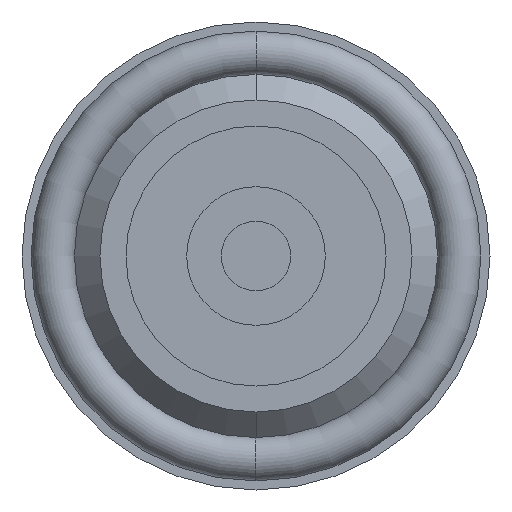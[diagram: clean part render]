
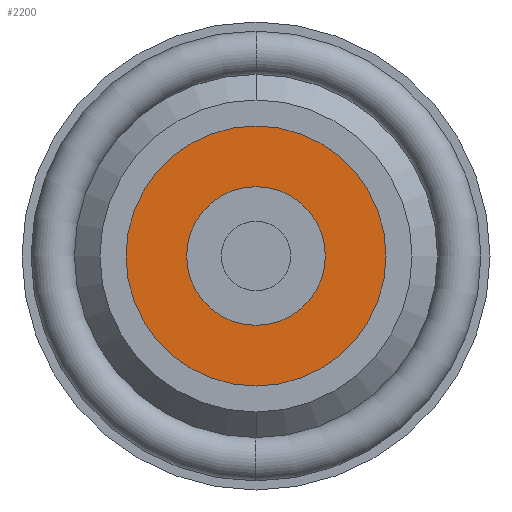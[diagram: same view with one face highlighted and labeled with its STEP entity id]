
A CAD part, front view. The second image highlights one B-rep face of the part: STEP entity #2200.
In plain terms, the highlighted planar face has unit normal (0, -1, 0).
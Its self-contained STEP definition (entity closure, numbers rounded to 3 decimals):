
#116 = DIRECTION ( 'NONE',  ( 0., 0., -1. ) ) ;
#117 = DIRECTION ( 'NONE',  ( 0., -1., 0. ) ) ;
#123 = CIRCLE ( 'NONE', #140, 7.5 ) ;
#140 = AXIS2_PLACEMENT_3D ( 'NONE', #149, #117, #116 ) ;
#149 = CARTESIAN_POINT ( 'NONE',  ( 0., 0., 0. ) ) ;
#156 = DIRECTION ( 'NONE',  ( 0., -1., 0. ) ) ;
#158 = AXIS2_PLACEMENT_3D ( 'NONE', #164, #156, #187 ) ;
#159 = CARTESIAN_POINT ( 'NONE',  ( 0., 0., 7.5 ) ) ;
#164 = CARTESIAN_POINT ( 'NONE',  ( 0., 0., 0. ) ) ;
#181 = CIRCLE ( 'NONE', #158, 4. ) ;
#187 = DIRECTION ( 'NONE',  ( 0., 0., -1. ) ) ;
#414 = CARTESIAN_POINT ( 'NONE',  ( 0., 0., -7.5 ) ) ;
#444 = CARTESIAN_POINT ( 'NONE',  ( 0., 0., 4. ) ) ;
#445 = CARTESIAN_POINT ( 'NONE',  ( 0., 0., -4. ) ) ;
#2200 = ADVANCED_FACE ( 'NONE', ( #3113, #3149 ), #3119, .T. ) ;
#2223 = ORIENTED_EDGE ( 'NONE', *, *, #5923, .F. ) ;
#2231 = EDGE_CURVE ( 'NONE', #6044, #6043, #3068, .T. ) ;
#2232 = ORIENTED_EDGE ( 'NONE', *, *, #2243, .T. ) ;
#2243 = EDGE_CURVE ( 'NONE', #6045, #5920, #3296, .T. ) ;
#2280 = ORIENTED_EDGE ( 'NONE', *, *, #2231, .F. ) ;
#2291 = EDGE_LOOP ( 'NONE', ( #2223, #2280 ) ) ;
#2292 = ORIENTED_EDGE ( 'NONE', *, *, #5919, .T. ) ;
#2325 = EDGE_LOOP ( 'NONE', ( #2232, #2292 ) ) ;
#3068 = CIRCLE ( 'NONE', #3092, 4. ) ;
#3089 = DIRECTION ( 'NONE',  ( 0., 0., -1. ) ) ;
#3090 = DIRECTION ( 'NONE',  ( 0., -1., 0. ) ) ;
#3091 = CARTESIAN_POINT ( 'NONE',  ( 0., 0., 0. ) ) ;
#3092 = AXIS2_PLACEMENT_3D ( 'NONE', #3091, #3090, #3089 ) ;
#3113 = FACE_OUTER_BOUND ( 'NONE', #2325, .T. ) ;
#3119 = PLANE ( 'NONE',  #3140 ) ;
#3138 = DIRECTION ( 'NONE',  ( 0., 0., -1. ) ) ;
#3139 = DIRECTION ( 'NONE',  ( 0., -1., 0. ) ) ;
#3140 = AXIS2_PLACEMENT_3D ( 'NONE', #3190, #3139, #3138 ) ;
#3149 = FACE_BOUND ( 'NONE', #2291, .T. ) ;
#3190 = CARTESIAN_POINT ( 'NONE',  ( 7.5, 0., 0. ) ) ;
#3218 = CARTESIAN_POINT ( 'NONE',  ( 0., 0., 0. ) ) ;
#3220 = DIRECTION ( 'NONE',  ( 0., -1., 0. ) ) ;
#3282 = DIRECTION ( 'NONE',  ( 0., 0., -1. ) ) ;
#3296 = CIRCLE ( 'NONE', #3354, 7.5 ) ;
#3354 = AXIS2_PLACEMENT_3D ( 'NONE', #3218, #3220, #3282 ) ;
#5919 = EDGE_CURVE ( 'NONE', #5920, #6045, #123, .T. ) ;
#5920 = VERTEX_POINT ( 'NONE', #159 ) ;
#5923 = EDGE_CURVE ( 'NONE', #6043, #6044, #181, .T. ) ;
#6043 = VERTEX_POINT ( 'NONE', #445 ) ;
#6044 = VERTEX_POINT ( 'NONE', #444 ) ;
#6045 = VERTEX_POINT ( 'NONE', #414 ) ;
